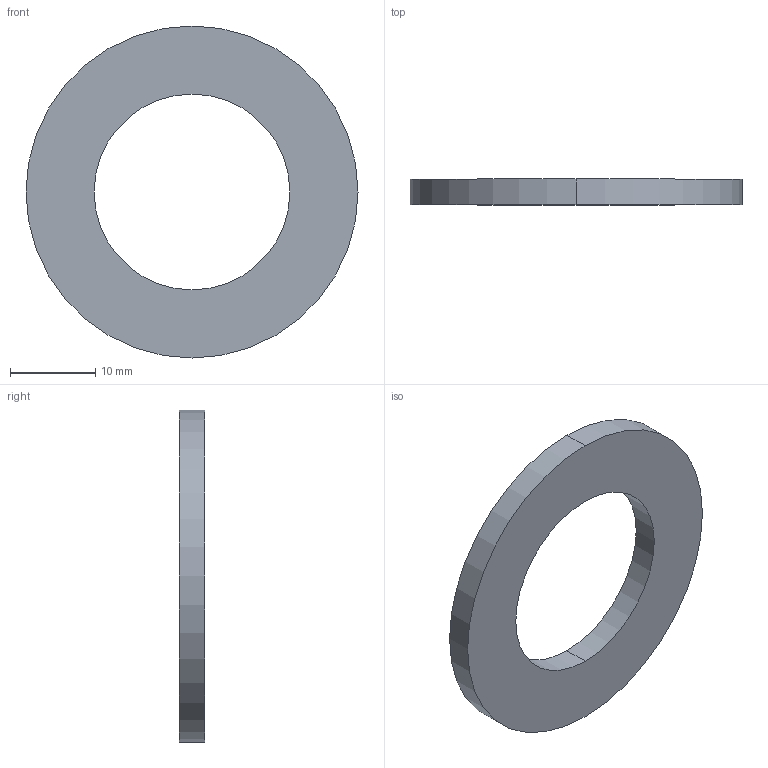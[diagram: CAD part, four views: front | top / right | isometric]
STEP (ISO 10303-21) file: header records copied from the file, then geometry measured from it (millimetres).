
FILE_DESCRIPTION (( 'STEP AP203' ), '1' );
FILE_NAME ('P0330.220-ZP.step', '2018-07-08T17:20:26', ( '' ), ( '' ), 'SwSTEP 2.0', 'SolidWorks 2017', '' );
FILE_SCHEMA (( 'CONFIG_CONTROL_DESIGN' ));
Length unit declared in the file: millimetre
Products named in the file (1): P0330.220-ZP
Bounding box: 39 x 3 x 39 mm (x, y, z)
Volume: 2337.3 mm3; surface area: 2142.6 mm2
Topology: 1 solids, 1 shells, 6 faces, 12 edges, 8 vertices
Faces by surface type: cylinder 4, plane 2
Entity records: 245 total; most frequent: DIRECTION 34, CARTESIAN_POINT 27, ORIENTED_EDGE 24, AXIS2_PLACEMENT_3D 15, EDGE_CURVE 12, VERTEX_POINT 8, EDGE_LOOP 8, PERSON_AND_ORGANIZATION 8
